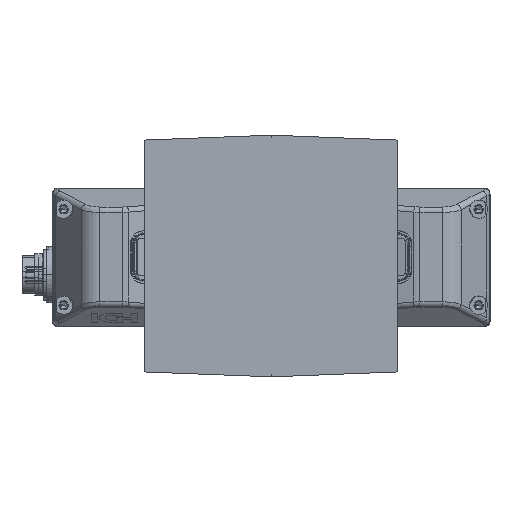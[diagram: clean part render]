
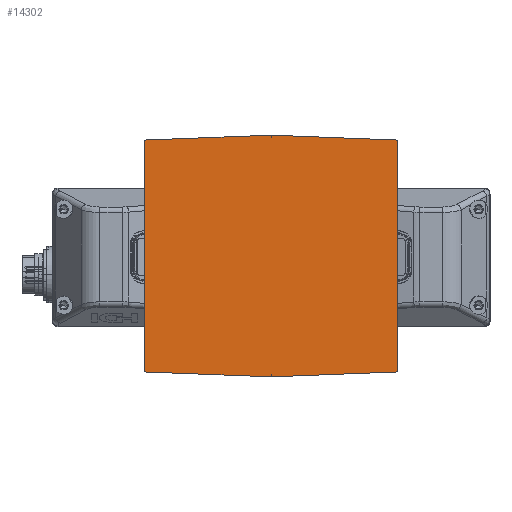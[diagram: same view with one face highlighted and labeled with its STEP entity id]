
A CAD part, top view. The second image highlights one B-rep face of the part: STEP entity #14302.
In plain terms, the highlighted planar face has unit normal (0, 0, 1) as drawn and (0, 0, -1) by its records, which use the part's own axes.
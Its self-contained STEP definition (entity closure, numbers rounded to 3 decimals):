
#1687 = VERTEX_POINT ( 'NONE', #23455 ) ;
#1781 = DIRECTION ( 'NONE',  ( 0., -1., 0. ) ) ;
#2428 = DIRECTION ( 'NONE',  ( 0., 0., 1. ) ) ;
#2729 = VECTOR ( 'NONE', #14300, 1000. ) ;
#2874 = VERTEX_POINT ( 'NONE', #60352 ) ;
#5655 = ORIENTED_EDGE ( 'NONE', *, *, #43613, .F. ) ;
#6638 = VERTEX_POINT ( 'NONE', #15190 ) ;
#7424 = PLANE ( 'NONE',  #7869 ) ;
#7869 = AXIS2_PLACEMENT_3D ( 'NONE', #33664, #2428, #38915 ) ;
#8925 = ORIENTED_EDGE ( 'NONE', *, *, #59621, .F. ) ;
#11853 = FACE_OUTER_BOUND ( 'NONE', #32474, .T. ) ;
#12818 = CARTESIAN_POINT ( 'NONE',  ( 44.808, 62.064, -274.447 ) ) ;
#13726 = ORIENTED_EDGE ( 'NONE', *, *, #62704, .F. ) ;
#14300 = DIRECTION ( 'NONE',  ( -0.999, 0.039, 0. ) ) ;
#14302 = ADVANCED_FACE ( 'NONE', ( #11853 ), #7424, .F. ) ;
#14666 = CARTESIAN_POINT ( 'NONE',  ( 48.114, -19.936, -274.447 ) ) ;
#14814 = DIRECTION ( 'NONE',  ( 0.999, -0.039, 0. ) ) ;
#15190 = CARTESIAN_POINT ( 'NONE',  ( -44.808, -20.064, -274.447 ) ) ;
#16589 = LINE ( 'NONE', #19604, #2729 ) ;
#17050 = EDGE_CURVE ( 'NONE', #2874, #64731, #19524, .T. ) ;
#17956 = CARTESIAN_POINT ( 'NONE',  ( 44.808, 21., -274.447 ) ) ;
#19524 = LINE ( 'NONE', #17956, #33392 ) ;
#19604 = CARTESIAN_POINT ( 'NONE',  ( 48.114, 61.936, -274.447 ) ) ;
#21644 = VERTEX_POINT ( 'NONE', #52903 ) ;
#23455 = CARTESIAN_POINT ( 'NONE',  ( -44.808, 62.064, -274.447 ) ) ;
#24959 = ORIENTED_EDGE ( 'NONE', *, *, #34872, .F. ) ;
#25403 = CARTESIAN_POINT ( 'NONE',  ( 0., 63.801, -274.447 ) ) ;
#26034 = ORIENTED_EDGE ( 'NONE', *, *, #17050, .F. ) ;
#26515 = VECTOR ( 'NONE', #14814, 1000. ) ;
#29183 = VECTOR ( 'NONE', #1781, 1000. ) ;
#30810 = LINE ( 'NONE', #53844, #29183 ) ;
#32474 = EDGE_LOOP ( 'NONE', ( #26034, #24959, #62410, #13726, #5655, #8925 ) ) ;
#33392 = VECTOR ( 'NONE', #59571, 1000. ) ;
#33664 = CARTESIAN_POINT ( 'NONE',  ( 0., 0., -274.447 ) ) ;
#34293 = VECTOR ( 'NONE', #66966, 1000. ) ;
#34872 = EDGE_CURVE ( 'NONE', #21644, #2874, #43357, .T. ) ;
#35579 = CARTESIAN_POINT ( 'NONE',  ( -48.114, 61.936, -274.447 ) ) ;
#37982 = VERTEX_POINT ( 'NONE', #25403 ) ;
#38915 = DIRECTION ( 'NONE',  ( 1., 0., 0. ) ) ;
#39902 = EDGE_CURVE ( 'NONE', #6638, #21644, #40439, .T. ) ;
#40439 = LINE ( 'NONE', #61744, #26515 ) ;
#43357 = LINE ( 'NONE', #14666, #58933 ) ;
#43613 = EDGE_CURVE ( 'NONE', #37982, #1687, #46619, .T. ) ;
#46619 = LINE ( 'NONE', #35579, #34293 ) ;
#52903 = CARTESIAN_POINT ( 'NONE',  ( 0., -21.801, -274.447 ) ) ;
#53844 = CARTESIAN_POINT ( 'NONE',  ( -44.808, 21., -274.447 ) ) ;
#56526 = DIRECTION ( 'NONE',  ( 0.999, 0.039, 0. ) ) ;
#58933 = VECTOR ( 'NONE', #56526, 1000. ) ;
#59571 = DIRECTION ( 'NONE',  ( 0., 1., 0. ) ) ;
#59621 = EDGE_CURVE ( 'NONE', #64731, #37982, #16589, .T. ) ;
#60352 = CARTESIAN_POINT ( 'NONE',  ( 44.808, -20.064, -274.447 ) ) ;
#61744 = CARTESIAN_POINT ( 'NONE',  ( -48.114, -19.936, -274.447 ) ) ;
#62410 = ORIENTED_EDGE ( 'NONE', *, *, #39902, .F. ) ;
#62704 = EDGE_CURVE ( 'NONE', #1687, #6638, #30810, .T. ) ;
#64731 = VERTEX_POINT ( 'NONE', #12818 ) ;
#66966 = DIRECTION ( 'NONE',  ( -0.999, -0.039, 0. ) ) ;
